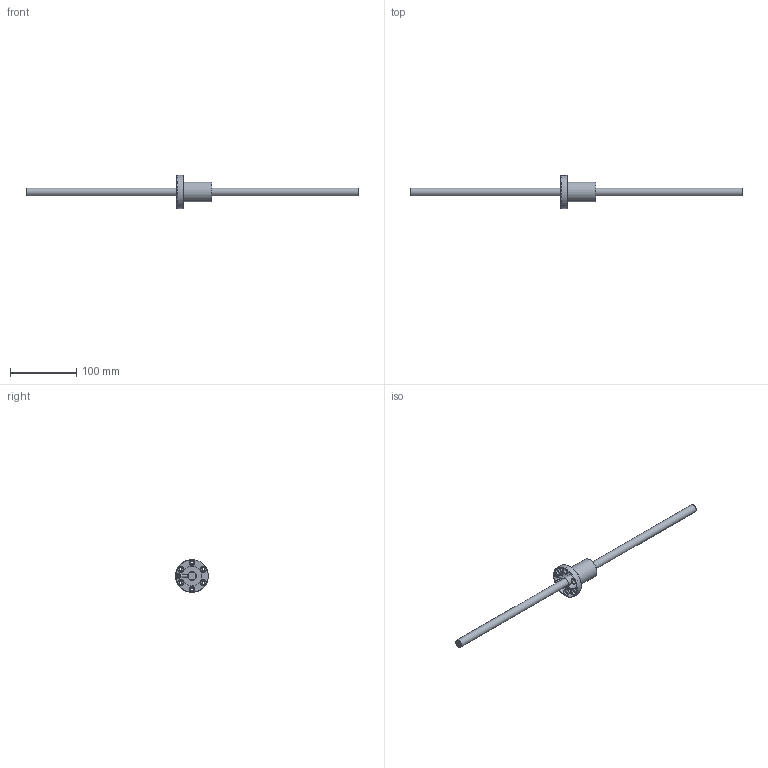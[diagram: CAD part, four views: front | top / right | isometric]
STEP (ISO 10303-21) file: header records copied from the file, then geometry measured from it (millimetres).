
FILE_DESCRIPTION (( 'STEP AP203' ), '1' );
FILE_NAME ('SFV01210N-2.7.step', '2024-05-20T03:36:58', ( '' ), ( '' ), 'SwSTEP 2.0', 'SolidWorks 2022', '' );
FILE_SCHEMA (( 'CONFIG_CONTROL_DESIGN' ));
Length unit declared in the file: millimetre
Products named in the file (1): SFV01210N-2.7
Bounding box: 500 x 50 x 50 mm (x, y, z)
Volume: 96504 mm3; surface area: 31657.5 mm2
Topology: 2 solids, 2 shells, 57 faces, 131 edges, 79 vertices
Faces by surface type: cylinder 24, cone 13, plane 12, bspline 5, torus 3
Full cylindrical faces by diameter (mm): 4 x1, 4.5 x6, 5 x6, 8 x6, 12 x1, 13.5 x1, 30 x1, 50 x1
Entity records: 2999 total; most frequent: CARTESIAN_POINT 1978, DIRECTION 206, ORIENTED_EDGE 136, EDGE_LOOP 102, AXIS2_PLACEMENT_3D 101, FACE_OUTER_BOUND 72, EDGE_CURVE 68, VERTEX_POINT 58
